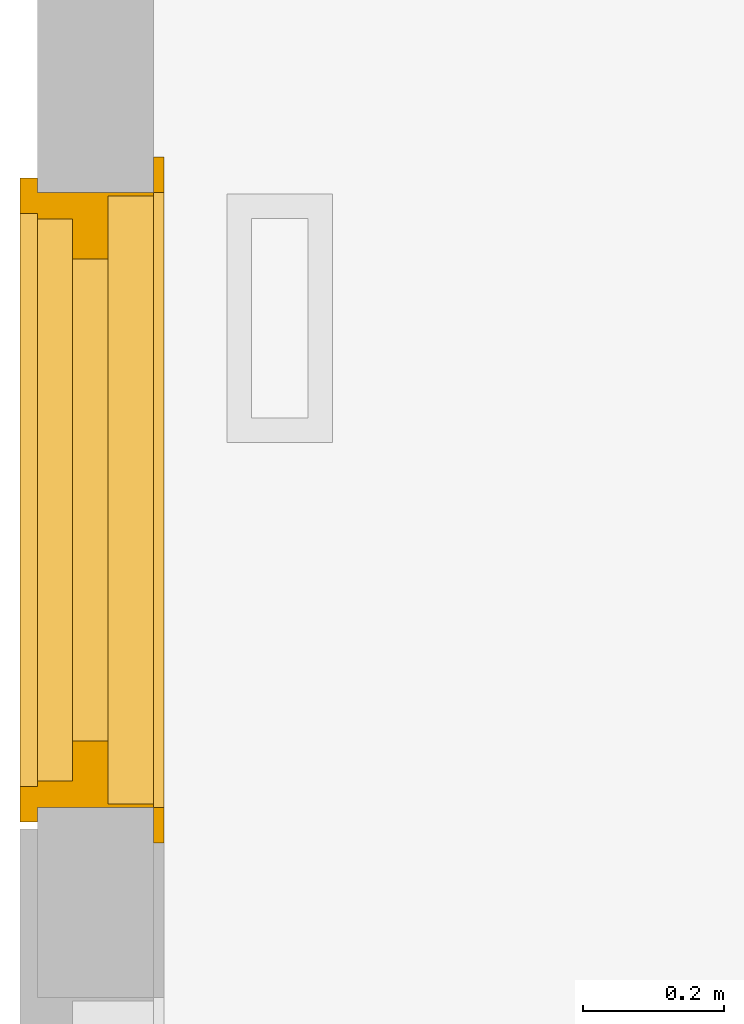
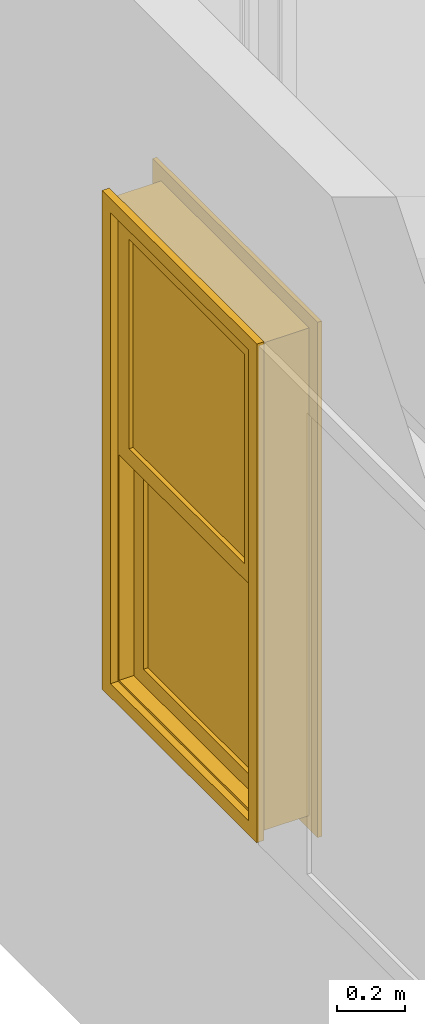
# One storey, part 30 of 77: 1 window.
"""IFC2X3 building model written with IfcOpenShell, lengths in inches."""

from ifc_helpers import new_model, entity, si_unit, converted_unit, derived_unit, money_unit, direction, frame, origin_with_axes, place, context, subcontext, project, spatial, open_shell, faceted_brep, surface_model, source, transform, mapped, type_object, element, save


model = new_model("IFC2X3")

# Units and contexts
model_context = context("Model", 3, precision=0.000393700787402, world=origin_with_axes(), true_north=direction((0.0, 1.0)))
body_context = subcontext(model_context, "Body", "Model", "MODEL_VIEW")
ifc_project = project(units=[converted_unit("LENGTHUNIT", "INCH", entity("IfcPositiveLengthMeasure", 0.0254), si_unit("LENGTHUNIT", "METRE"), dimensions=[1, 0, 0, 0, 0, 0, 0]), converted_unit("AREAUNIT", "SQUARE_FOOT", entity("IfcPositiveLengthMeasure", 0.09290304), si_unit("AREAUNIT", "SQUARE_METRE"), dimensions=[2, 0, 0, 0, 0, 0, 0]), si_unit("PLANEANGLEUNIT", "RADIAN"), si_unit("SOLIDANGLEUNIT", "STERADIAN"), money_unit("USD"), converted_unit("TIMEUNIT", "Year", entity("IfcTimeMeasure", 31556926.0), si_unit("TIMEUNIT", "SECOND"), dimensions=[0, 0, 1, 0, 0, 0, 0]), si_unit("MASSUNIT", "GRAM", prefix="KILO"), si_unit("THERMODYNAMICTEMPERATUREUNIT", "DEGREE_CELSIUS"), si_unit("LUMINOUSINTENSITYUNIT", "LUMEN"), si_unit("ENERGYUNIT", "JOULE", prefix="MEGA"), derived_unit("THERMALCONDUCTANCEUNIT", [(si_unit("POWERUNIT", "WATT"), 1), (si_unit("LENGTHUNIT", "METRE"), -1), (si_unit("THERMODYNAMICTEMPERATUREUNIT", "KELVIN"), -1)]), derived_unit("SPECIFICHEATCAPACITYUNIT", [(si_unit("ENERGYUNIT", "JOULE"), 1), (si_unit("MASSUNIT", "GRAM", prefix="KILO"), -1), (si_unit("THERMODYNAMICTEMPERATUREUNIT", "KELVIN"), -1)]), derived_unit("MASSDENSITYUNIT", [(si_unit("MASSUNIT", "GRAM", prefix="KILO"), 1), (si_unit("VOLUMEUNIT", "CUBIC_METRE"), -1)])], contexts=[model_context])

# Site, building, storey
site_placement = place(None, origin_with_axes())
site = spatial("IfcSite", under=ifc_project, at=site_placement, Name="Site", CompositionType="ELEMENT")
building_placement = place(site_placement, origin_with_axes())
building = spatial("IfcBuilding", under=site, at=building_placement, Name="Building", CompositionType="ELEMENT")
storey_placement = place(building_placement, frame((0.0, 0.0, 127.952755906), z_axis=(0.0, 0.0, 1.0), x_axis=(1.0, 0.0, 0.0)))
storey = spatial("IfcBuildingStorey", under=building, at=storey_placement, Name="Second Floor", CompositionType="ELEMENT", Elevation=127.953)

# Window
window_style = type_object("IfcWindowStyle", Name="Double-Hung Window 25", ConstructionType="NOTDEFINED", OperationType="DOUBLE_PANEL_HORIZONTAL", ParameterTakesPrecedence=False, Sizeable=False)
shared_shape = source(origin_with_axes(), body_context, "Body", "SurfaceModel", [
    faceted_brep([(-17.2244094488, 0.0, 0.0), (-17.2244094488, 2.56299212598, 0.0), (17.2244094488, 2.56299212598, 0.0), (17.2244094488, 0.0, 0.0), (-17.2244094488, 0.0, 69.2913385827), (-17.2244094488, 2.56299212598, 69.2913385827), (17.2244094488, 2.56299212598, 69.2913385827), (-17.0275590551, 2.56299212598, 0.196850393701), (17.0275590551, 2.56299212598, 0.196850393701), (17.0275590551, 2.56299212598, 69.094488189), (-17.0275590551, 2.56299212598, 69.094488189), (17.2244094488, 0.0, 69.2913385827), (-17.0275590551, 0.0, 0.196850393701), (-17.0275590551, 0.0, 69.094488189), (17.0275590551, 0.0, 69.094488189), (17.0275590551, 0.0, 0.196850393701)], [[[0, 1, 2, 3]], [[4, 5, 1, 0]], [[1, 5, 6, 2], [7, 8, 9, 10]], [[3, 2, 6, 11]], [[0, 3, 11, 4], [12, 13, 14, 15]], [[11, 6, 5, 4]], [[15, 8, 7, 12]], [[14, 9, 8, 15]], [[13, 10, 9, 14]], [[12, 7, 10, 13]]]),
    faceted_brep([(-19.1929133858, 3.15354330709, -1.96850393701), (-17.2244094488, 3.15354330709, 0.0), (-17.2244094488, 2.56299212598, 0.0), (-19.1929133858, 2.56299212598, -1.96850393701), (-19.1929133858, 3.15354330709, 71.2598425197), (-17.2244094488, 3.15354330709, 69.2913385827), (-17.2244094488, 2.56299212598, 69.2913385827), (-19.1929133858, 2.56299212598, 71.2598425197)], [[[0, 1, 2, 3]], [[0, 4, 5, 1]], [[1, 5, 6, 2]], [[3, 2, 6, 7]], [[4, 0, 3, 7]], [[5, 4, 7, 6]]]),
    faceted_brep([(19.1929133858, 3.15354330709, 71.2598425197), (17.2244094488, 3.15354330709, 69.2913385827), (17.2244094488, 2.56299212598, 69.2913385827), (19.1929133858, 2.56299212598, 71.2598425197), (19.1929133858, 3.15354330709, -1.96850393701), (17.2244094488, 3.15354330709, 0.0), (17.2244094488, 2.56299212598, 0.0), (19.1929133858, 2.56299212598, -1.96850393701)], [[[0, 1, 2, 3]], [[0, 4, 5, 1]], [[1, 5, 6, 2]], [[3, 2, 6, 7]], [[4, 0, 3, 7]], [[5, 4, 7, 6]]]),
    faceted_brep([(19.1929133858, 3.15354330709, -1.96850393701), (17.2244094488, 3.15354330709, 0.0), (17.2244094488, 2.56299212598, 0.0), (19.1929133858, 2.56299212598, -1.96850393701), (-19.1929133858, 3.15354330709, -1.96850393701), (-17.2244094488, 3.15354330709, 0.0), (-17.2244094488, 2.56299212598, 0.0), (-19.1929133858, 2.56299212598, -1.96850393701)], [[[0, 1, 2, 3]], [[0, 4, 5, 1]], [[1, 5, 6, 2]], [[3, 2, 6, 7]], [[4, 0, 3, 7]], [[5, 4, 7, 6]]]),
    faceted_brep([(-19.1929133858, 3.15354330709, 71.2598425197), (-17.2244094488, 3.15354330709, 69.2913385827), (-17.2244094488, 2.56299212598, 69.2913385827), (-19.1929133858, 2.56299212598, 71.2598425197), (19.1929133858, 3.15354330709, 71.2598425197), (17.2244094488, 3.15354330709, 69.2913385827), (17.2244094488, 2.56299212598, 69.2913385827), (19.1929133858, 2.56299212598, 71.2598425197)], [[[0, 1, 2, 3]], [[0, 4, 5, 1]], [[1, 5, 6, 2]], [[3, 2, 6, 7]], [[4, 0, 3, 7]], [[5, 4, 7, 6]]]),
    faceted_brep([(-18.0118110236, -4.92125984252, -0.787401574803), (-18.0118110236, -3.93700787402, -0.787401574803), (-16.0433070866, -3.93700787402, 1.1811023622), (-16.0433070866, -4.92125984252, 1.1811023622), (-18.0118110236, -4.92125984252, 70.0787401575), (-18.0118110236, -3.93700787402, 70.0787401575), (-16.0433070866, -3.93700787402, 68.1102362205), (-16.0433070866, -4.92125984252, 68.1102362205)], [[[0, 1, 2, 3]], [[4, 5, 1, 0]], [[1, 5, 6, 2]], [[3, 2, 6, 7]], [[0, 3, 7, 4]], [[7, 6, 5, 4]]]),
    faceted_brep([(18.0118110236, -4.92125984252, 70.0787401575), (18.0118110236, -3.93700787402, 70.0787401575), (16.0433070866, -3.93700787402, 68.1102362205), (16.0433070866, -4.92125984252, 68.1102362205), (18.0118110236, -4.92125984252, -0.787401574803), (18.0118110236, -3.93700787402, -0.787401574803), (16.0433070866, -3.93700787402, 1.1811023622), (16.0433070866, -4.92125984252, 1.1811023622)], [[[0, 1, 2, 3]], [[4, 5, 1, 0]], [[1, 5, 6, 2]], [[3, 2, 6, 7]], [[0, 3, 7, 4]], [[7, 6, 5, 4]]]),
    faceted_brep([(18.0118110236, -4.92125984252, -0.787401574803), (18.0118110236, -3.93700787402, -0.787401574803), (16.0433070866, -3.93700787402, 1.1811023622), (16.0433070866, -4.92125984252, 1.1811023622), (-18.0118110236, -4.92125984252, -0.787401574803), (-18.0118110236, -3.93700787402, -0.787401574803), (-16.0433070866, -3.93700787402, 1.1811023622), (-16.0433070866, -4.92125984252, 1.1811023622)], [[[0, 1, 2, 3]], [[4, 5, 1, 0]], [[1, 5, 6, 2]], [[3, 2, 6, 7]], [[0, 3, 7, 4]], [[7, 6, 5, 4]]]),
    faceted_brep([(-18.0118110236, -4.92125984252, 70.0787401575), (-18.0118110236, -3.93700787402, 70.0787401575), (-16.0433070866, -3.93700787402, 68.1102362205), (-16.0433070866, -4.92125984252, 68.1102362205), (18.0118110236, -4.92125984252, 70.0787401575), (18.0118110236, -3.93700787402, 70.0787401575), (16.0433070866, -3.93700787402, 68.1102362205), (16.0433070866, -4.92125984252, 68.1102362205)], [[[0, 1, 2, 3]], [[4, 5, 1, 0]], [[1, 5, 6, 2]], [[3, 2, 6, 7]], [[0, 3, 7, 4]], [[7, 6, 5, 4]]]),
    faceted_brep([(-15.7283464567, -3.93700787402, 67.7952755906), (-15.7283464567, 0.0, 67.7952755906), (-17.2244094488, 0.0, 67.7952755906), (-17.2244094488, -3.93700787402, 67.7952755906), (-15.7283464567, -3.93700787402, 1.49606299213), (-15.7283464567, 0.0, 1.49606299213), (-17.2244094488, 0.0, 1.49606299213), (-17.2244094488, -3.93700787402, 1.49606299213)], [[[0, 1, 2, 3]], [[4, 5, 1, 0]], [[1, 5, 6, 2]], [[3, 2, 6, 7]], [[0, 3, 7, 4]], [[7, 6, 5, 4]]]),
    faceted_brep([(15.7283464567, -3.93700787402, 1.49606299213), (15.7283464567, 0.0, 1.49606299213), (17.2244094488, 0.0, 1.49606299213), (17.2244094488, -3.93700787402, 1.49606299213), (15.7283464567, -3.93700787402, 67.7952755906), (15.7283464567, 0.0, 67.7952755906), (17.2244094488, 0.0, 67.7952755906), (17.2244094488, -3.93700787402, 67.7952755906)], [[[0, 1, 2, 3]], [[4, 5, 1, 0]], [[1, 5, 6, 2]], [[3, 2, 6, 7]], [[0, 3, 7, 4]], [[7, 6, 5, 4]]]),
    faceted_brep([(-15.7283464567, -3.93700787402, 1.49606299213), (-15.7283464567, 0.0, 1.49606299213), (-17.2244094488, 0.0, 1.49606299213), (-17.2244094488, -3.93700787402, 1.49606299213), (15.7283464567, -3.93700787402, 1.49606299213), (15.7283464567, 0.0, 1.49606299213), (17.2244094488, 0.0, 1.49606299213), (17.2244094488, 0.0, 0.0), (-17.2244094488, 0.0, 0.0), (-17.2244094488, -3.93700787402, 0.0), (17.2244094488, -3.93700787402, 0.0), (17.2244094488, -3.93700787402, 1.49606299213)], [[[0, 1, 2, 3]], [[4, 5, 1, 0]], [[1, 5, 6, 7, 8, 2]], [[3, 2, 8, 9]], [[0, 3, 9, 10, 11, 4]], [[11, 6, 5, 4]], [[10, 7, 6, 11]], [[9, 8, 7, 10]]]),
    faceted_brep([(15.7283464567, -3.93700787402, 67.7952755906), (15.7283464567, 0.0, 67.7952755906), (17.2244094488, 0.0, 67.7952755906), (17.2244094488, -3.93700787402, 67.7952755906), (-15.7283464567, -3.93700787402, 67.7952755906), (-15.7283464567, 0.0, 67.7952755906), (-17.2244094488, 0.0, 67.7952755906), (-17.2244094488, 0.0, 69.2913385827), (17.2244094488, 0.0, 69.2913385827), (17.2244094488, -3.93700787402, 69.2913385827), (-17.2244094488, -3.93700787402, 69.2913385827), (-17.2244094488, -3.93700787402, 67.7952755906)], [[[0, 1, 2, 3]], [[4, 5, 1, 0]], [[1, 5, 6, 7, 8, 2]], [[3, 2, 8, 9]], [[0, 3, 9, 10, 11, 4]], [[11, 6, 5, 4]], [[10, 7, 6, 11]], [[9, 8, 7, 10]]]),
    faceted_brep([(-13.4842519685, -1.96850393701, 33.5236220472), (-13.4842519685, 0.0, 33.5236220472), (-15.7283464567, 0.0, 33.5236220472), (-15.7283464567, -1.96850393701, 33.5236220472), (-13.4842519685, -1.96850393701, 3.74015748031), (-13.4842519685, 0.0, 3.74015748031), (-15.7283464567, 0.0, 3.74015748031), (-15.7283464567, -1.96850393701, 3.74015748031)], [[[0, 1, 2, 3]], [[4, 5, 1, 0]], [[1, 5, 6, 2]], [[3, 2, 6, 7]], [[0, 3, 7, 4]], [[7, 6, 5, 4]]]),
    faceted_brep([(13.4842519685, -1.96850393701, 3.74015748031), (13.4842519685, 0.0, 3.74015748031), (15.7283464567, 0.0, 3.74015748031), (15.7283464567, -1.96850393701, 3.74015748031), (13.4842519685, -1.96850393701, 33.5236220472), (13.4842519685, 0.0, 33.5236220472), (15.7283464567, 0.0, 33.5236220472), (15.7283464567, -1.96850393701, 33.5236220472)], [[[0, 1, 2, 3]], [[4, 5, 1, 0]], [[1, 5, 6, 2]], [[3, 2, 6, 7]], [[0, 3, 7, 4]], [[7, 6, 5, 4]]]),
    faceted_brep([(15.7283464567, -1.96850393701, 1.49606299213), (15.7283464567, 0.0, 1.49606299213), (15.7283464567, 0.0, 3.74015748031), (15.7283464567, -1.96850393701, 3.74015748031), (-15.7283464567, -1.96850393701, 1.49606299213), (-15.7283464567, 0.0, 1.49606299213), (-15.7283464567, 0.0, 3.74015748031), (-13.4842519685, 0.0, 3.74015748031), (13.4842519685, 0.0, 3.74015748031), (13.4842519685, -1.96850393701, 3.74015748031), (-13.4842519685, -1.96850393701, 3.74015748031), (-15.7283464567, -1.96850393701, 3.74015748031)], [[[0, 1, 2, 3]], [[4, 5, 1, 0]], [[1, 5, 6, 7, 8, 2]], [[3, 2, 8, 9]], [[0, 3, 9, 10, 11, 4]], [[11, 6, 5, 4]], [[10, 7, 6, 11]], [[9, 8, 7, 10]]]),
    faceted_brep([(-15.7283464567, -1.96850393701, 35.7677165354), (-15.7283464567, 0.0, 35.7677165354), (-15.7283464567, 0.0, 33.5236220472), (-15.7283464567, -1.96850393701, 33.5236220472), (15.7283464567, -1.96850393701, 35.7677165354), (15.7283464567, 0.0, 35.7677165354), (15.7283464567, 0.0, 33.5236220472), (13.4842519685, 0.0, 33.5236220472), (-13.4842519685, 0.0, 33.5236220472), (-13.4842519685, -1.96850393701, 33.5236220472), (13.4842519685, -1.96850393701, 33.5236220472), (15.7283464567, -1.96850393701, 33.5236220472)], [[[0, 1, 2, 3]], [[4, 5, 1, 0]], [[1, 5, 6, 7, 8, 2]], [[3, 2, 8, 9]], [[0, 3, 9, 10, 11, 4]], [[11, 6, 5, 4]], [[10, 7, 6, 11]], [[9, 8, 7, 10]]]),
    surface_model("IfcShellBasedSurfaceModel", [(-13.4842519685, -1.37795275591, 3.74015748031), (13.4842519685, -1.37795275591, 3.74015748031), (13.4842519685, -1.37795275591, 33.5236220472), (-13.4842519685, -1.37795275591, 33.5236220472)], [open_shell([[[0, 1, 2, 3]]])]),
    surface_model("IfcShellBasedSurfaceModel", [(-13.4842519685, -0.590551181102, 3.74015748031), (-13.4842519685, -0.590551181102, 33.5236220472), (13.4842519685, -0.590551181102, 33.5236220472), (13.4842519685, -0.590551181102, 3.74015748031)], [open_shell([[[0, 1, 2, 3]]])]),
    faceted_brep([(-13.4842519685, -3.93700787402, 65.5511811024), (-13.4842519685, -1.96850393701, 65.5511811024), (-15.7283464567, -1.96850393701, 65.5511811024), (-15.7283464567, -3.93700787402, 65.5511811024), (-13.4842519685, -3.93700787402, 35.7677165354), (-13.4842519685, -1.96850393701, 35.7677165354), (-15.7283464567, -1.96850393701, 35.7677165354), (-15.7283464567, -3.93700787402, 35.7677165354)], [[[0, 1, 2, 3]], [[4, 5, 1, 0]], [[1, 5, 6, 2]], [[3, 2, 6, 7]], [[0, 3, 7, 4]], [[7, 6, 5, 4]]]),
    faceted_brep([(13.4842519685, -3.93700787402, 35.7677165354), (13.4842519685, -1.96850393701, 35.7677165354), (15.7283464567, -1.96850393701, 35.7677165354), (15.7283464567, -3.93700787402, 35.7677165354), (13.4842519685, -3.93700787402, 65.5511811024), (13.4842519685, -1.96850393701, 65.5511811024), (15.7283464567, -1.96850393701, 65.5511811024), (15.7283464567, -3.93700787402, 65.5511811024)], [[[0, 1, 2, 3]], [[4, 5, 1, 0]], [[1, 5, 6, 2]], [[3, 2, 6, 7]], [[0, 3, 7, 4]], [[7, 6, 5, 4]]]),
    faceted_brep([(15.7283464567, -3.93700787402, 33.5236220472), (15.7283464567, -1.96850393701, 33.5236220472), (15.7283464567, -1.96850393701, 35.7677165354), (15.7283464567, -3.93700787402, 35.7677165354), (-15.7283464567, -3.93700787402, 33.5236220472), (-15.7283464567, -1.96850393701, 33.5236220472), (-15.7283464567, -1.96850393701, 35.7677165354), (-13.4842519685, -1.96850393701, 35.7677165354), (13.4842519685, -1.96850393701, 35.7677165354), (13.4842519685, -3.93700787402, 35.7677165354), (-13.4842519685, -3.93700787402, 35.7677165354), (-15.7283464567, -3.93700787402, 35.7677165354)], [[[0, 1, 2, 3]], [[4, 5, 1, 0]], [[1, 5, 6, 7, 8, 2]], [[3, 2, 8, 9]], [[0, 3, 9, 10, 11, 4]], [[11, 6, 5, 4]], [[10, 7, 6, 11]], [[9, 8, 7, 10]]]),
    faceted_brep([(-15.7283464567, -3.93700787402, 67.7952755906), (-15.7283464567, -1.96850393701, 67.7952755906), (-15.7283464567, -1.96850393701, 65.5511811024), (-15.7283464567, -3.93700787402, 65.5511811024), (15.7283464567, -3.93700787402, 67.7952755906), (15.7283464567, -1.96850393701, 67.7952755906), (15.7283464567, -1.96850393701, 65.5511811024), (13.4842519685, -1.96850393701, 65.5511811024), (-13.4842519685, -1.96850393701, 65.5511811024), (-13.4842519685, -3.93700787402, 65.5511811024), (13.4842519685, -3.93700787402, 65.5511811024), (15.7283464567, -3.93700787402, 65.5511811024)], [[[0, 1, 2, 3]], [[4, 5, 1, 0]], [[1, 5, 6, 7, 8, 2]], [[3, 2, 8, 9]], [[0, 3, 9, 10, 11, 4]], [[11, 6, 5, 4]], [[10, 7, 6, 11]], [[9, 8, 7, 10]]]),
    surface_model("IfcShellBasedSurfaceModel", [(-13.4842519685, -3.34645669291, 35.7677165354), (13.4842519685, -3.34645669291, 35.7677165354), (13.4842519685, -3.34645669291, 65.5511811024), (-13.4842519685, -3.34645669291, 65.5511811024)], [open_shell([[[0, 1, 2, 3]]])]),
    surface_model("IfcShellBasedSurfaceModel", [(-13.4842519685, -2.55905511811, 35.7677165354), (-13.4842519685, -2.55905511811, 65.5511811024), (13.4842519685, -2.55905511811, 65.5511811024), (13.4842519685, -2.55905511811, 35.7677165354)], [open_shell([[[0, 1, 2, 3]]])]),
])
window_placement = place(storey_placement, frame((226.637942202, 575.490014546, 25.7874015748), z_axis=(0.0, 0.0, 1.0), x_axis=(0.0, -1.0, 0.0)))
element("IfcWindow", 1, at=window_placement, inside=storey, type_object=window_style, Name="W-29", OverallHeight=69.2913, OverallWidth=34.4488, context=body_context, shape_type="MappedRepresentation", body=[
    mapped(shared_shape, transform((17.2244094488, -2.56299212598, 0.0))),
])

save(model, "model.ifc")
